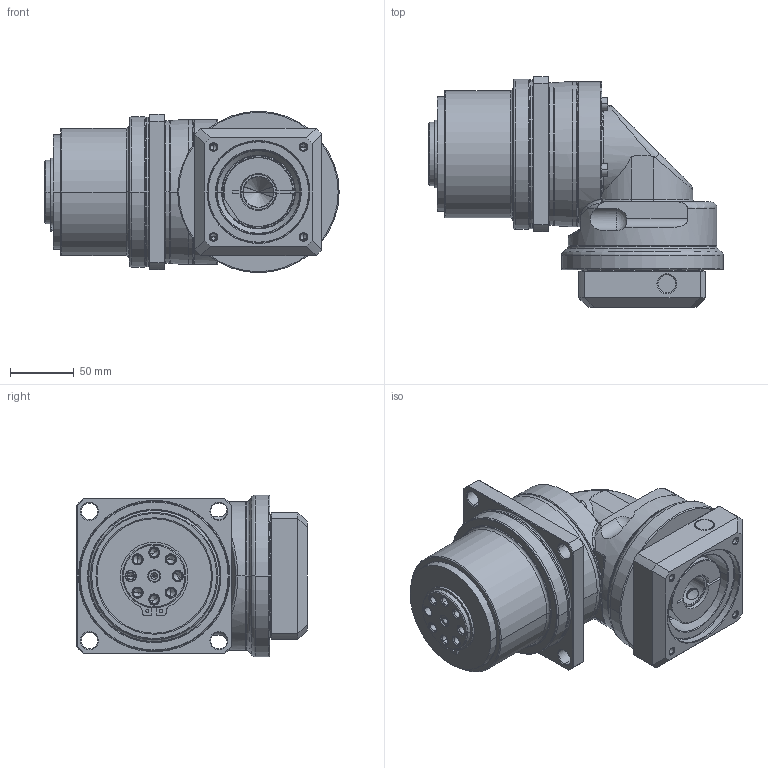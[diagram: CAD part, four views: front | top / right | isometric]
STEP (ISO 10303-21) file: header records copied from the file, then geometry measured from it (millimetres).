
FILE_DESCRIPTION((''),'2;1');
FILE_NAME('PLR120_1ST_24-P0411500101_ASM','2016-06-20T',('d00435'),(''),'PRO/ENGINEER BY PARAMETRIC TECHNOLOGY CORPORATION, 2008410','PRO/ENGINEER BY PARAMETRIC TECHNOLOGY CORPORATION, 2008410','');
FILE_SCHEMA(('CONFIG_CONTROL_DESIGN'));
Length unit declared in the file: millimetre
Products named in the file (10): P0272400001; P1353400001; P0366400001; 22802000029; P1017410001; P1350400101; P0411500101; P0503500008; P0713400101; PLR120_1ST_24-P0411500101_ASM
Assembly tree (9 placements, depth 2):
  PLR120_1ST_24-P0411500101_ASM
    P0272400001
    P1353400001
    P0366400001
    22802000029
    P1017410001
    P1350400101
    P0411500101
    P0503500008
    P0713400101
Bounding box: 231.5 x 181.5 x 127 mm (x, y, z)
Volume: 2017042.5 mm3; surface area: 313593.3 mm2
Topology: 10 solids, 27 shells, 587 faces, 1368 edges, 825 vertices
Faces by surface type: cylinder 203, cone 158, plane 120, torus 74, bspline 30, sphere 2
Entity records: 19721 total; most frequent: CARTESIAN_POINT 6143, DIRECTION 3006, ORIENTED_EDGE 2600, EDGE_CURVE 1334, AXIS2_PLACEMENT_3D 1271, VERTEX_POINT 825, CIRCLE 687, EDGE_LOOP 677
